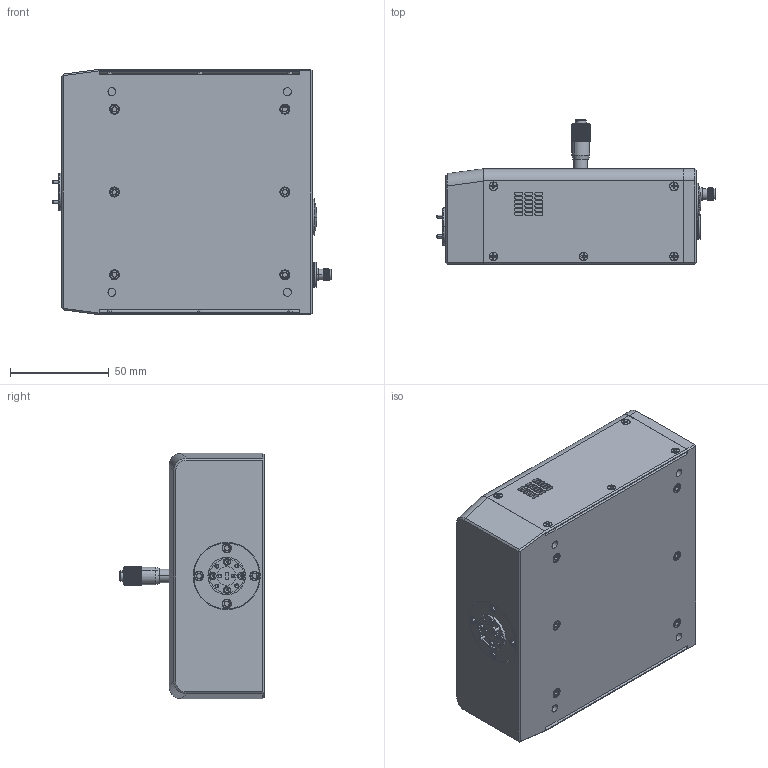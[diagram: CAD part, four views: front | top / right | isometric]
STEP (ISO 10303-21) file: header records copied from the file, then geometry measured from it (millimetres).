
FILE_DESCRIPTION (( 'STEP AP214' ), '1' );
FILE_NAME ('TE-E-A-2 No Legs DF.STEP', '2024-08-28T18:01:25', ( '' ), ( '' ), 'SwSTEP 2.0', 'SolidWorks 2021', '' );
FILE_SCHEMA (( 'AUTOMOTIVE_DESIGN' ));
Products named in the file (1): TE-E-A-2 No Legs DF
Bounding box: 141.1 x 73.27 x 124.32 mm (x, y, z)
Volume: 745642.8 mm3; surface area: 106836.2 mm2
Topology: 21 solids, 31 shells, 4928 faces, 10989 edges, 6175 vertices
Faces by surface type: bspline 2660, cylinder 1178, plane 783, cone 299, sphere 6, torus 2
Entity records: 602922 total; most frequent: CARTESIAN_POINT 525043, ORIENTED_EDGE 21890, EDGE_CURVE 10945, DIRECTION 9494, VERTEX_POINT 6175, EDGE_LOOP 5134, FACE_OUTER_BOUND 4928, ADVANCED_FACE 4928
